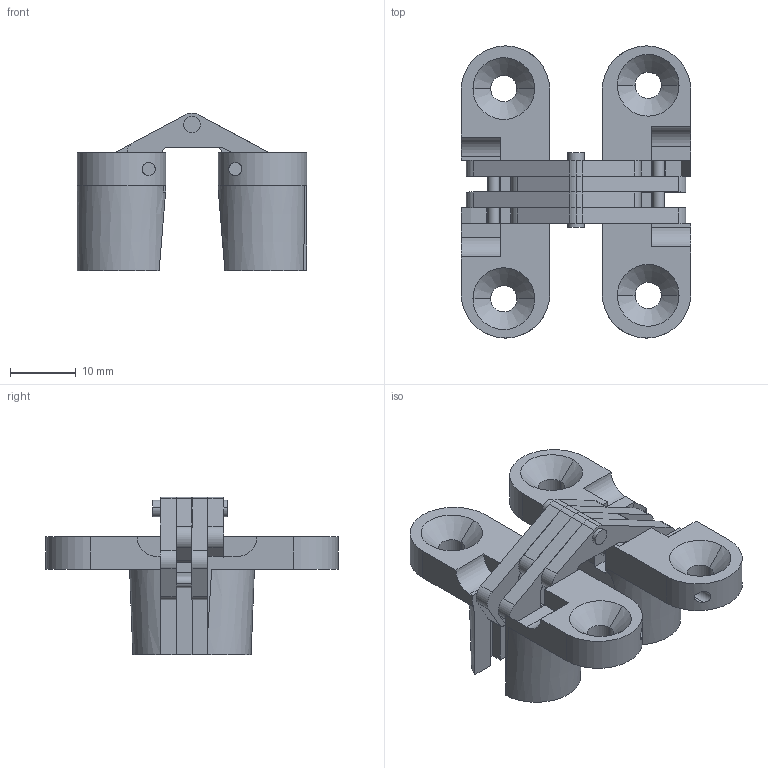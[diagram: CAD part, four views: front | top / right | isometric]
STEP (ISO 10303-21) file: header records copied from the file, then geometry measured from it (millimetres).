
FILE_DESCRIPTION (( 'STEP AP203' ), '1' );
FILE_NAME ('KH-50-1 3D ASS''Y.STEP', '2012-12-26T07:03:56', ( '' ), ( '' ), 'SwSTEP 2.0', 'SolidWorks 2010', '' );
FILE_SCHEMA (( 'CONFIG_CONTROL_DESIGN' ));
Length unit declared in the file: millimetre
Products named in the file (6): KH-50-1 3D ASS''Y; 1; ARM; ARM PIN 3; ARM PIN 1; ARM PIN 2
Assembly tree (11 placements, depth 2):
  KH-50-1 3D ASS''Y
    ARM PIN 1  x2
    ARM PIN 3
    1  x2
    ARM PIN 2  x2
    ARM  x4
Bounding box: 35 x 44.5 x 24 mm (x, y, z)
Volume: 8502.4 mm3; surface area: 8296.6 mm2
Topology: 11 solids, 11 shells, 246 faces, 664 edges, 438 vertices
Faces by surface type: plane 144, cylinder 90, cone 8, bspline 4
Entity records: 4336 total; most frequent: CARTESIAN_POINT 973, DIRECTION 548, ORIENTED_EDGE 532, EDGE_CURVE 266, VECTOR 184, LINE 184, AXIS2_PLACEMENT_3D 182, VERTEX_POINT 175
